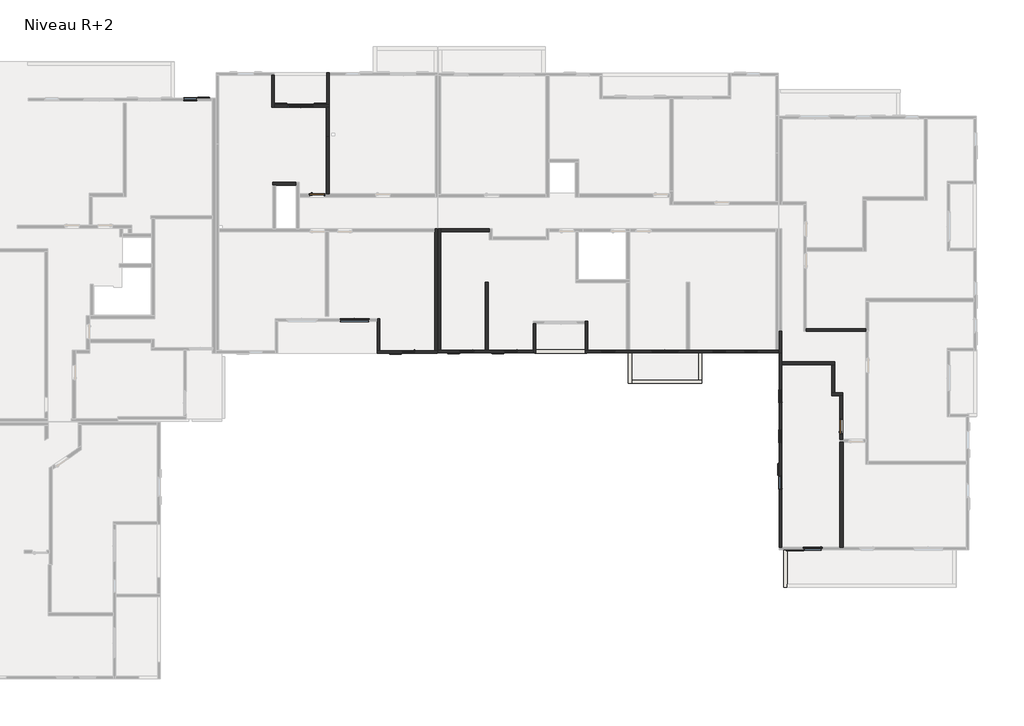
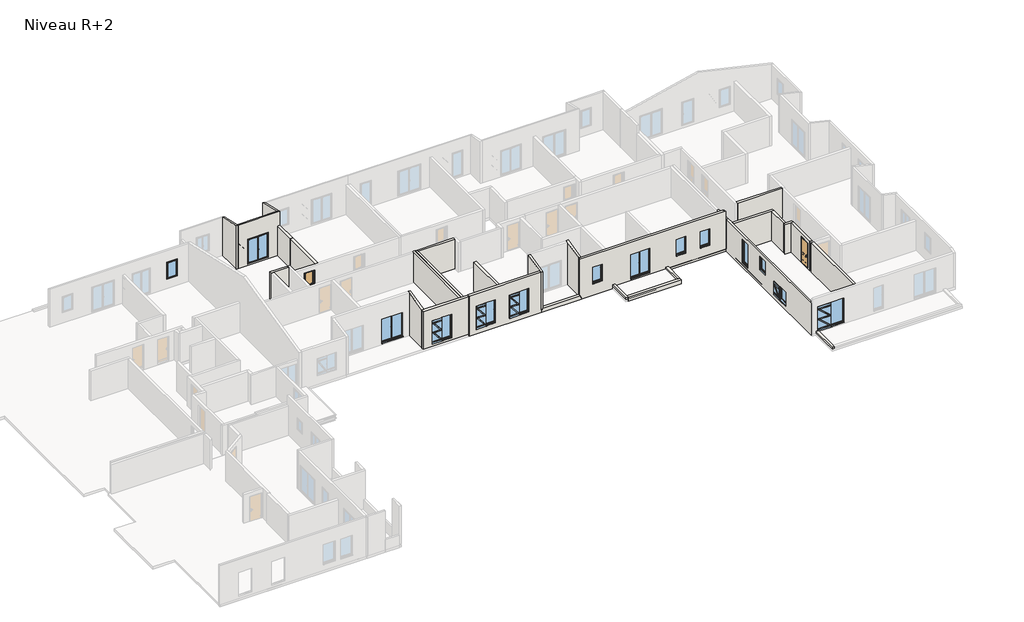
# One storey, part 4 of 7: 29 walls, 14 windows, 2 doors.
"""IFC4 building model written with IfcOpenShell, lengths in millimetres."""

from ifc_helpers import new_model, si_unit, frame, origin, place, context, project, spatial, polyline, outline, extrude, faceted_brep, transform, mapped, element, save
from components import door_88e42b76, door_280daffa, window_e9bb7084, window_2b853f76, window_0_80m_x_1_15m_e63e5422, window_0_80m_x_1_45m_ea18c776, window_0_80m_x_1_45m_510e4769, window_0_80m_x_2_05m_45d8a1b5, window_0_80m_x_2_05m_30132c93, window_1_10m_x_2_15m_8741d377, window_1_60m_x_2_15m_1bfb613b, window_1_60m_x_2_15m_e7e592b5, window_1_80m_x_2_15m_7d3a4370

model = new_model("IFC4")

# Units and contexts
model_context = context("Model", 3, world=origin())
ifc_project = project(units=[si_unit("LENGTHUNIT", "METRE", prefix="MILLI")], contexts=[model_context])

# Site, building, storey
site = spatial("IfcSite", under=ifc_project)
building = spatial("IfcBuilding", under=site)
storey = spatial("IfcBuildingStorey", under=building, Name="Niveau R+2", Elevation=6120.0)

# Doors
placement = place(None, origin())
door_shape = door_88e42b76(model_context)
element("IfcDoor", 1, ObjectType="Entrée (avec angle d'ouverture) : PP Avec moulures (0.90 m x 2.15 m)", at=placement, inside=storey, context=model_context, shape_type="MappedRepresentation", body=[
    mapped(door_shape, transform((30232.3833363, 24372.4965623, 6120.0), x_axis=(1.0, 0.0, 0.0), y_axis=(0.0, 1.0, 0.0), z_axis=(0.0, 0.0, 1.0))),
])
door_2_shape = door_280daffa(model_context)
element("IfcDoor", 2, ObjectType="Entrée (avec angle d'ouverture) : PP Avec moulures (0.90 m x 2.15 m)", at=placement, inside=storey, context=model_context, shape_type="MappedRepresentation", body=[
    mapped(door_2_shape, transform((63287.9329052, 9804.0889515, 6120.0), x_axis=(0.0, 1.0, 0.0), y_axis=(-1.0, 0.0, 0.0), z_axis=(0.0, 0.0, 1.0))),
])

# Walls
element("IfcWall", 3, ObjectType="Ext. Voile BA 16 + Isolant 12 sans enduit", at=placement, inside=storey, context=model_context, shape_type="SweptSolid", body=[
    extrude(outline(polyline([(59512.9059955, 15804.7371469), (59512.9059955, 14437.838074), (59352.9059955, 14437.838074), (59352.9059955, 15804.7371469), (59512.9059955, 15804.7371469)])), frame((0.0, 0.0, 6030.0), z_axis=(0.0, 0.0, 1.0), x_axis=(1.0, 0.0, 0.0)), (0.0, 0.0, 1.0), 2620.0),
])
element("IfcWall", 4, ObjectType="Ext. Voile BA 16 + Isolant 120", at=placement, inside=storey, context=model_context, shape_type="Brep", body=[
    faceted_brep([(27364.3814808, 31947.4974719, 9403.3012228), (27364.3814808, 31947.4974719, 6030.0), (27364.3814808, 29952.4974719, 6030.0), (27364.3814808, 29952.4974719, 9863.8832641), (27524.3814808, 31947.4974719, 6030.0), (27524.3814808, 31947.4974719, 9403.3012228), (27524.3814808, 30112.4974719, 9826.9443536), (27524.3814808, 29952.4974719, 9863.8832641), (27524.3814808, 29952.4974719, 6030.0), (27444.3814808, 31947.4974719, 6030.0)], [[[0, 1, 2, 3]], [[4, 5, 6, 7, 8]], [[2, 1, 9, 4, 8]], [[3, 2, 8, 7]], [[0, 5, 4, 9, 1]], [[0, 3, 7, 6, 5]]]),
])
element("IfcWall", 5, ObjectType="Ext. Voile BA 16 + Isolant 120", at=placement, inside=storey, context=model_context, shape_type="Brep", body=[
    faceted_brep([(27524.3814808, 29952.4974719, 5830.0), (30984.3814808, 29952.4974719, 5830.0), (30984.3814808, 29952.4974719, 9863.8832641), (27524.3814808, 29952.4974719, 9863.8832641), (27524.3814808, 29952.4974719, 6030.0), (29974.3814808, 29952.4974719, 6155.0), (28374.3814808, 29952.4974719, 6155.0), (28324.3814808, 29952.4974719, 6155.0), (28324.3814808, 29952.4974719, 8355.0), (30024.3814808, 29952.4974719, 8355.0), (30024.3814808, 29952.4974719, 6155.0), (30984.3814808, 30112.4974719, 5830.0), (27524.3814808, 30112.4974719, 5830.0), (27524.3814808, 30112.4974719, 9826.9443536), (30824.3814808, 30112.4974719, 9826.9443536), (30984.3814808, 30112.4974719, 9826.9443536), (30984.3814808, 30112.4974719, 6030.0), (28374.3814808, 30112.4974719, 8305.0), (28374.3814808, 30112.4974719, 6146.5916612), (29974.3814808, 30112.4974719, 6146.5916612), (29974.3814808, 30112.4974719, 8305.0), (28374.3814808, 30052.4974719, 8305.0), (28374.3814808, 30052.4974719, 6155.0), (28374.3814808, 30032.4974719, 6155.0), (29974.3814808, 30032.4974719, 6155.0), (29974.3814808, 30052.4974719, 6155.0), (29974.3814808, 30052.4974719, 8305.0), (28364.3814808, 30052.4974719, 6155.0), (28364.3814808, 30002.4974719, 6155.0), (28324.3814808, 30002.4974719, 6155.0), (30024.3814808, 30002.4974719, 6155.0), (29984.3814808, 30002.4974719, 6155.0), (29984.3814808, 30052.4974719, 6155.0), (28324.3814808, 30002.4974719, 8355.0), (30024.3814808, 30002.4974719, 8355.0), (28364.3814808, 30002.4974719, 8315.0), (29984.3814808, 30002.4974719, 8315.0), (28364.3814808, 30052.4974719, 8315.0), (29984.3814808, 30052.4974719, 8315.0)], [[[0, 1, 2, 3, 4], [5, 6, 7, 8, 9, 10]], [[11, 12, 13, 14, 15, 16], [17, 18, 19, 20]], [[1, 0, 12, 11]], [[0, 4, 3, 13, 12]], [[2, 1, 11, 16, 15]], [[21, 22, 23, 18, 17]], [[24, 25, 26, 20, 19]], [[23, 22, 27, 28, 29, 7, 6, 5, 10, 30, 31, 32, 25, 24]], [[26, 21, 17, 20]], [[23, 24, 19, 18]], [[7, 29, 33, 8]], [[31, 30, 34, 33, 29, 28, 35, 36]], [[28, 27, 37, 35]], [[22, 21, 26, 25, 32, 38, 37, 27]], [[8, 33, 34, 9]], [[36, 35, 37, 38]], [[30, 10, 9, 34]], [[32, 31, 36, 38]], [[3, 2, 15, 14, 13]]]),
])
element("IfcWall", 6, ObjectType="Ext. Voile BA 16 + Isolant 120", at=placement, inside=storey, context=model_context, shape_type="Brep", body=[
    faceted_brep([(30984.3814808, 30112.4974719, 6030.0), (30984.3814808, 31947.4972516, 6030.0), (30984.3814808, 32107.4972516, 6030.0), (30984.3814808, 32107.4972516, 9366.3623631), (30984.3814808, 31947.4972516, 9403.3012737), (30984.3814808, 30112.4974719, 9826.9443536), (30824.3814808, 30112.4974719, 6030.0), (30824.3814808, 30112.4974719, 9826.9443536), (30824.3814808, 32107.4972516, 9366.3623631), (30824.3814808, 32107.4972516, 6030.0), (30904.3814808, 32107.4972516, 6030.0)], [[[0, 1, 2, 3, 4, 5]], [[6, 7, 8, 9]], [[2, 1, 0, 6, 9, 10]], [[0, 5, 7, 6]], [[2, 10, 9, 8, 3]], [[5, 4, 3, 8, 7]]]),
])
element("IfcWall", 7, ObjectType="Ext. Voile BA 16 + Isolant 120", at=placement, inside=storey, context=model_context, shape_type="Brep", body=[
    faceted_brep([(34012.3966699, 14597.8380864, 9403.3012737), (34172.3966699, 14597.8380864, 9403.3012737), (37799.4832806, 14597.8380864, 9403.3012737), (37799.4832806, 14597.8380864, 8650.0), (37799.4832806, 14597.8380864, 6030.0), (37639.4832806, 14597.8380864, 6030.0), (34172.3966699, 14597.8380864, 6030.0), (34012.3966699, 14597.8380864, 6030.0), (35541.8956313, 14597.8380864, 6255.0), (36441.8956313, 14597.8380864, 6255.0), (36441.8956313, 14597.8380864, 8355.0), (35541.8956313, 14597.8380864, 8355.0), (37799.4832806, 14437.8380864, 9366.3623631), (34012.3966699, 14437.8380864, 9366.3623631), (34012.3966699, 14437.8380864, 6030.0), (37799.4832806, 14437.8380864, 6030.0), (36391.8956313, 14437.8380864, 8305.0), (36391.8956313, 14437.8380864, 6246.5916612), (35591.8956313, 14437.8380864, 6246.5916612), (35591.8956313, 14437.8380864, 8305.0), (36391.8956313, 14517.8380864, 6255.0), (36391.8956313, 14497.8380864, 8305.0), (36391.8956313, 14497.8380864, 6255.0), (35591.8956313, 14517.8380864, 6255.0), (35591.8956313, 14497.8380864, 6255.0), (35591.8956313, 14497.8380864, 8305.0), (36401.8956313, 14497.8380864, 6255.0), (36401.8956313, 14547.8380864, 6255.0), (36441.8956313, 14547.8380864, 6255.0), (35541.8956313, 14547.8380864, 6255.0), (35581.8956313, 14547.8380864, 6255.0), (35581.8956313, 14497.8380864, 6255.0), (36441.8956313, 14547.8380864, 8355.0), (36401.8956313, 14547.8380864, 8315.0), (35581.8956313, 14547.8380864, 8315.0), (35541.8956313, 14547.8380864, 8355.0), (36401.8956313, 14497.8380864, 8315.0), (35581.8956313, 14497.8380864, 8315.0)], [[[0, 1, 2, 3, 4, 5, 6, 7], [8, 9, 10, 11]], [[12, 13, 14, 15], [16, 17, 18, 19]], [[13, 0, 7, 14]], [[2, 12, 15, 4, 3]], [[7, 6, 5, 4, 15, 14]], [[20, 17, 16, 21, 22]], [[18, 23, 24, 25, 19]], [[17, 20, 23, 18]], [[21, 16, 19, 25]], [[20, 22, 26, 27, 28, 9, 8, 29, 30, 31, 24, 23]], [[9, 28, 32, 10]], [[28, 27, 33, 34, 30, 29, 35, 32]], [[27, 26, 36, 33]], [[22, 21, 25, 24, 31, 37, 36, 26]], [[10, 32, 35, 11]], [[34, 33, 36, 37]], [[29, 8, 11, 35]], [[31, 30, 34, 37]], [[2, 1, 0, 13, 12]]]),
])
element("IfcWall", 8, ObjectType="Ext. Voile BA 16 + Isolant 120", at=placement, inside=storey, context=model_context, shape_type="SweptSolid", body=[
    extrude(outline(polyline([(14597.8380864, 6030.0), (14597.8380864, 9403.3012737), (16591.4013077, 9863.5516085), (16591.4013077, 6030.0), (14597.8380864, 6030.0)])), frame((34012.3966699, 0.0, 0.0), z_axis=(1.0, 0.0, 0.0), x_axis=(0.0, 1.0, 0.0)), (0.0, 0.0, 1.0), 160.0),
])
element("IfcWall", 9, ObjectType="Ext. Voile BA 16 + Isolant 120", at=placement, inside=storey, context=model_context, shape_type="Brep", body=[
    faceted_brep([(59512.9059955, 2184.0269927, 5830.0), (59512.9059955, 14437.838074, 5830.0), (59512.9059955, 14437.838074, 6030.0), (59512.9059955, 14437.838074, 8650.0), (59512.9059955, 13894.0889866, 8650.0), (59512.9059955, 13714.0889866, 8650.0), (59512.9059955, 2184.0269927, 8650.0), (59512.9059955, 9590.2011252, 7155.0), (59512.9059955, 8790.2011252, 7155.0), (59512.9059955, 8740.2011252, 7155.0), (59512.9059955, 8740.2011252, 8355.0), (59512.9059955, 9640.2011252, 8355.0), (59512.9059955, 9640.2011252, 7155.0), (59512.9059955, 12169.0889866, 6255.0), (59512.9059955, 11269.0889866, 6255.0), (59512.9059955, 11269.0889866, 8355.0), (59512.9059955, 12169.0889866, 8355.0), (59512.9059955, 6705.2011252, 6255.0), (59512.9059955, 5805.2011252, 6255.0), (59512.9059955, 5805.2011252, 7455.0), (59512.9059955, 6705.2011252, 7455.0), (59352.9059955, 14437.838074, 5830.0), (59352.9059955, 2184.0269927, 5830.0), (59352.9059955, 2184.0269927, 6030.0), (59352.9059955, 2184.0269927, 8650.0), (59352.9059955, 14437.838074, 8650.0), (59352.9059955, 14437.838074, 6030.0), (59352.9059955, 8790.2011252, 8305.0), (59352.9059955, 8790.2011252, 7146.5916612), (59352.9059955, 9590.2011252, 7146.5916612), (59352.9059955, 9590.2011252, 8305.0), (59352.9059955, 11319.0889866, 8305.0), (59352.9059955, 11319.0889866, 6246.5916612), (59352.9059955, 12119.0889866, 6246.5916612), (59352.9059955, 12119.0889866, 8305.0), (59352.9059955, 5855.2011252, 7405.0), (59352.9059955, 5855.2011252, 6175.0), (59352.9059955, 6655.2011252, 6175.0), (59352.9059955, 6655.2011252, 7405.0), (59412.9059955, 8790.2011252, 8305.0), (59412.9059955, 8790.2011252, 7155.0), (59432.9059955, 8790.2011252, 7155.0), (59432.9059955, 9590.2011252, 7155.0), (59412.9059955, 9590.2011252, 7155.0), (59412.9059955, 9590.2011252, 8305.0), (59412.9059955, 8780.2011252, 7155.0), (59462.9059955, 8780.2011252, 7155.0), (59462.9059955, 8740.2011252, 7155.0), (59462.9059955, 9640.2011252, 7155.0), (59462.9059955, 9600.2011252, 7155.0), (59412.9059955, 9600.2011252, 7155.0), (59462.9059955, 8740.2011252, 8355.0), (59462.9059955, 9640.2011252, 8355.0), (59462.9059955, 8780.2011252, 8315.0), (59462.9059955, 9600.2011252, 8315.0), (59412.9059955, 8780.2011252, 8315.0), (59412.9059955, 9600.2011252, 8315.0), (59432.9059955, 11319.0889866, 6255.0), (59412.9059955, 11319.0889866, 8305.0), (59412.9059955, 11319.0889866, 6255.0), (59432.9059955, 12119.0889866, 6255.0), (59412.9059955, 12119.0889866, 6255.0), (59412.9059955, 12119.0889866, 8305.0), (59412.9059955, 11309.0889866, 6255.0), (59462.9059955, 11309.0889866, 6255.0), (59462.9059955, 11269.0889866, 6255.0), (59462.9059955, 12169.0889866, 6255.0), (59462.9059955, 12129.0889866, 6255.0), (59412.9059955, 12129.0889866, 6255.0), (59462.9059955, 11269.0889866, 8355.0), (59462.9059955, 11309.0889866, 8315.0), (59462.9059955, 12129.0889866, 8315.0), (59462.9059955, 12169.0889866, 8355.0), (59412.9059955, 11309.0889866, 8315.0), (59412.9059955, 12129.0889866, 8315.0), (59432.9059955, 5855.2011252, 6175.0), (59412.9059955, 5855.2011252, 7405.0), (59412.9059955, 5855.2011252, 6255.0), (59432.9059955, 5855.2011252, 6255.0), (59432.9059955, 6655.2011252, 6175.0), (59432.9059955, 6655.2011252, 6255.0), (59412.9059955, 6655.2011252, 6255.0), (59412.9059955, 6655.2011252, 7405.0), (59412.9059955, 5845.2011252, 6255.0), (59462.9059955, 5845.2011252, 6255.0), (59462.9059955, 5805.2011252, 6255.0), (59462.9059955, 6705.2011252, 6255.0), (59462.9059955, 6665.2011252, 6255.0), (59412.9059955, 6665.2011252, 6255.0), (59462.9059955, 5805.2011252, 7455.0), (59462.9059955, 5845.2011252, 7415.0), (59462.9059955, 6665.2011252, 7415.0), (59462.9059955, 6705.2011252, 7455.0), (59412.9059955, 5845.2011252, 7415.0), (59412.9059955, 6665.2011252, 7415.0)], [[[0, 1, 2, 3, 4, 5, 6], [7, 8, 9, 10, 11, 12], [13, 14, 15, 16], [17, 18, 19, 20]], [[21, 22, 23, 24, 25, 26], [27, 28, 29, 30], [31, 32, 33, 34], [35, 36, 37, 38]], [[1, 0, 22, 21]], [[3, 2, 1, 21, 26, 25]], [[6, 5, 4, 3, 25, 24]], [[0, 6, 24, 23, 22]], [[39, 40, 41, 28, 27]], [[42, 43, 44, 30, 29]], [[41, 40, 45, 46, 47, 9, 8, 7, 12, 48, 49, 50, 43, 42]], [[44, 39, 27, 30]], [[41, 42, 29, 28]], [[9, 47, 51, 10]], [[49, 48, 52, 51, 47, 46, 53, 54]], [[46, 45, 55, 53]], [[40, 39, 44, 43, 50, 56, 55, 45]], [[10, 51, 52, 11]], [[54, 53, 55, 56]], [[48, 12, 11, 52]], [[50, 49, 54, 56]], [[57, 32, 31, 58, 59]], [[33, 60, 61, 62, 34]], [[32, 57, 60, 33]], [[58, 31, 34, 62]], [[57, 59, 63, 64, 65, 14, 13, 66, 67, 68, 61, 60]], [[14, 65, 69, 15]], [[65, 64, 70, 71, 67, 66, 72, 69]], [[64, 63, 73, 70]], [[59, 58, 62, 61, 68, 74, 73, 63]], [[15, 69, 72, 16]], [[71, 70, 73, 74]], [[66, 13, 16, 72]], [[68, 67, 71, 74]], [[75, 36, 35, 76, 77, 78]], [[37, 79, 80, 81, 82, 38]], [[36, 75, 79, 37]], [[76, 35, 38, 82]], [[78, 77, 83, 84, 85, 18, 17, 86, 87, 88, 81, 80]], [[18, 85, 89, 19]], [[85, 84, 90, 91, 87, 86, 92, 89]], [[84, 83, 93, 90]], [[77, 76, 82, 81, 88, 94, 93, 83]], [[19, 89, 92, 20]], [[91, 90, 93, 94]], [[86, 17, 20, 92]], [[88, 87, 91, 94]], [[75, 78, 80, 79]]]),
])
element("IfcWall", 10, ObjectType="Ext. Voile BA 16 + Isolant 120", at=placement, inside=storey, context=model_context, shape_type="Brep", body=[
    faceted_brep([(59292.9632272, 14617.838074, 5830.0), (47212.2384282, 14617.838074, 5830.0), (47212.2384282, 14617.838074, 6030.0), (47132.2384282, 14617.838074, 6030.0), (47132.2384282, 14617.838074, 9407.9186347), (47292.2384282, 14617.838074, 9407.9186347), (59102.0328268, 14617.838074, 9407.9186347), (59292.9632272, 14617.838074, 9363.8388785), (59292.9632272, 14617.838074, 8650.0), (59292.9632272, 14617.838074, 6030.0), (51321.5533494, 14617.838074, 6155.0), (53021.5533494, 14617.838074, 6155.0), (53021.5533494, 14617.838074, 8355.0), (51321.5533494, 14617.838074, 8355.0), (55131.1686301, 14617.838074, 6855.0), (56031.1686301, 14617.838074, 6855.0), (56031.1686301, 14617.838074, 8355.0), (55131.1686301, 14617.838074, 8355.0), (48128.6252663, 14617.838074, 6855.0), (49028.6252663, 14617.838074, 6855.0), (49028.6252663, 14617.838074, 8355.0), (48128.6252663, 14617.838074, 8355.0), (57127.7427462, 14617.838074, 6855.0), (58027.7427462, 14617.838074, 6855.0), (58027.7427462, 14617.838074, 8355.0), (57127.7427462, 14617.838074, 8355.0), (59292.9632272, 14457.838074, 5830.0), (59292.9632272, 14457.838074, 9363.8388785), (59262.0328268, 14457.838074, 9370.9797241), (47132.2384282, 14457.838074, 9370.9797241), (47132.2384282, 14457.838074, 6030.0), (47212.2384282, 14457.838074, 6030.0), (47212.2384282, 14457.838074, 5830.0), (52971.5533494, 14457.838074, 8305.0), (52971.5533494, 14457.838074, 6146.5916612), (51371.5533494, 14457.838074, 6146.5916612), (51371.5533494, 14457.838074, 8305.0), (55181.1686301, 14457.838074, 6846.5916612), (55181.1686301, 14457.838074, 8305.0), (55981.1686301, 14457.838074, 8305.0), (55981.1686301, 14457.838074, 6846.5916612), (48978.6252663, 14457.838074, 8305.0), (48978.6252663, 14457.838074, 6846.5916612), (48178.6252663, 14457.838074, 6846.5916612), (48178.6252663, 14457.838074, 8305.0), (57177.7427462, 14457.838074, 6846.5916612), (57177.7427462, 14457.838074, 8305.0), (57977.7427462, 14457.838074, 8305.0), (57977.7427462, 14457.838074, 6846.5916612), (52971.5533494, 14537.838074, 6155.0), (52971.5533494, 14517.838074, 8305.0), (52971.5533494, 14517.838074, 6155.0), (51371.5533494, 14537.838074, 6155.0), (51371.5533494, 14517.838074, 6155.0), (51371.5533494, 14517.838074, 8305.0), (52981.5533494, 14517.838074, 6155.0), (52981.5533494, 14567.838074, 6155.0), (53021.5533494, 14567.838074, 6155.0), (51321.5533494, 14567.838074, 6155.0), (51361.5533494, 14567.838074, 6155.0), (51361.5533494, 14517.838074, 6155.0), (53021.5533494, 14567.838074, 8355.0), (52981.5533494, 14567.838074, 8315.0), (51361.5533494, 14567.838074, 8315.0), (51321.5533494, 14567.838074, 8355.0), (52981.5533494, 14517.838074, 8315.0), (51361.5533494, 14517.838074, 8315.0), (55181.1686301, 14537.838074, 6855.0), (55181.1686301, 14517.838074, 6855.0), (55181.1686301, 14517.838074, 8305.0), (55981.1686301, 14517.838074, 8305.0), (55981.1686301, 14517.838074, 6855.0), (55981.1686301, 14537.838074, 6855.0), (55991.1686301, 14517.838074, 6855.0), (55991.1686301, 14567.838074, 6855.0), (56031.1686301, 14567.838074, 6855.0), (55131.1686301, 14567.838074, 6855.0), (55171.1686301, 14567.838074, 6855.0), (55171.1686301, 14517.838074, 6855.0), (55131.1686301, 14567.838074, 8355.0), (56031.1686301, 14567.838074, 8355.0), (55991.1686301, 14567.838074, 8315.0), (55171.1686301, 14567.838074, 8315.0), (55171.1686301, 14517.838074, 8315.0), (55991.1686301, 14517.838074, 8315.0), (48978.6252663, 14537.838074, 6855.0), (48978.6252663, 14517.838074, 8305.0), (48978.6252663, 14517.838074, 6855.0), (48178.6252663, 14537.838074, 6855.0), (48178.6252663, 14517.838074, 6855.0), (48178.6252663, 14517.838074, 8305.0), (48988.6252663, 14517.838074, 6855.0), (48988.6252663, 14567.838074, 6855.0), (49028.6252663, 14567.838074, 6855.0), (48128.6252663, 14567.838074, 6855.0), (48168.6252663, 14567.838074, 6855.0), (48168.6252663, 14517.838074, 6855.0), (49028.6252663, 14567.838074, 8355.0), (48988.6252663, 14567.838074, 8315.0), (48168.6252663, 14567.838074, 8315.0), (48128.6252663, 14567.838074, 8355.0), (48988.6252663, 14517.838074, 8315.0), (48168.6252663, 14517.838074, 8315.0), (57177.7427462, 14537.838074, 6855.0), (57177.7427462, 14517.838074, 6855.0), (57177.7427462, 14517.838074, 8305.0), (57977.7427462, 14517.838074, 8305.0), (57977.7427462, 14517.838074, 6855.0), (57977.7427462, 14537.838074, 6855.0), (57987.7427462, 14517.838074, 6855.0), (57987.7427462, 14567.838074, 6855.0), (58027.7427462, 14567.838074, 6855.0), (57127.7427462, 14567.838074, 6855.0), (57167.7427462, 14567.838074, 6855.0), (57167.7427462, 14517.838074, 6855.0), (57127.7427462, 14567.838074, 8355.0), (58027.7427462, 14567.838074, 8355.0), (57987.7427462, 14567.838074, 8315.0), (57167.7427462, 14567.838074, 8315.0), (57167.7427462, 14517.838074, 8315.0), (57987.7427462, 14517.838074, 8315.0)], [[[0, 1, 2, 3, 4, 5, 6, 7, 8, 9], [10, 11, 12, 13], [14, 15, 16, 17], [18, 19, 20, 21], [22, 23, 24, 25]], [[26, 27, 28, 29, 30, 31, 32], [33, 34, 35, 36], [37, 38, 39, 40], [41, 42, 43, 44], [45, 46, 47, 48]], [[1, 0, 26, 32]], [[0, 9, 8, 7, 27, 26]], [[49, 34, 33, 50, 51]], [[35, 52, 53, 54, 36]], [[49, 52, 35, 34]], [[33, 36, 54, 50]], [[52, 49, 51, 55, 56, 57, 11, 10, 58, 59, 60, 53]], [[11, 57, 61, 12]], [[57, 56, 62, 63, 59, 58, 64, 61]], [[56, 55, 65, 62]], [[55, 51, 50, 54, 53, 60, 66, 65]], [[12, 61, 64, 13]], [[63, 62, 65, 66]], [[64, 58, 10, 13]], [[59, 63, 66, 60]], [[67, 68, 69, 38, 37]], [[40, 39, 70, 71, 72]], [[67, 37, 40, 72]], [[38, 69, 70, 39]], [[72, 71, 73, 74, 75, 15, 14, 76, 77, 78, 68, 67]], [[14, 17, 79, 76]], [[76, 79, 80, 75, 74, 81, 82, 77]], [[77, 82, 83, 78]], [[78, 83, 84, 73, 71, 70, 69, 68]], [[17, 16, 80, 79]], [[81, 84, 83, 82]], [[80, 16, 15, 75]], [[74, 73, 84, 81]], [[85, 42, 41, 86, 87]], [[43, 88, 89, 90, 44]], [[85, 88, 43, 42]], [[41, 44, 90, 86]], [[88, 85, 87, 91, 92, 93, 19, 18, 94, 95, 96, 89]], [[19, 93, 97, 20]], [[93, 92, 98, 99, 95, 94, 100, 97]], [[92, 91, 101, 98]], [[91, 87, 86, 90, 89, 96, 102, 101]], [[20, 97, 100, 21]], [[99, 98, 101, 102]], [[100, 94, 18, 21]], [[95, 99, 102, 96]], [[2, 1, 32, 31]], [[30, 3, 2, 31]], [[103, 104, 105, 46, 45]], [[48, 47, 106, 107, 108]], [[103, 45, 48, 108]], [[46, 105, 106, 47]], [[108, 107, 109, 110, 111, 23, 22, 112, 113, 114, 104, 103]], [[22, 25, 115, 112]], [[112, 115, 116, 111, 110, 117, 118, 113]], [[113, 118, 119, 114]], [[114, 119, 120, 109, 107, 106, 105, 104]], [[25, 24, 116, 115]], [[117, 120, 119, 118]], [[116, 24, 23, 111]], [[110, 109, 120, 117]], [[3, 30, 29, 4]], [[7, 6, 28, 27]], [[6, 5, 4, 29, 28]]]),
])
element("IfcWall", 11, ObjectType="Ext. Voile BA 16 + Isolant 120", at=placement, inside=storey, context=model_context, shape_type="Brep", body=[
    faceted_brep([(47292.2384282, 14617.838074, 9407.9186347), (47292.2384282, 14617.838074, 6030.0), (47292.2384282, 16448.2809457, 6030.0), (47292.2384282, 16448.2809457, 9830.5096694), (47132.2384282, 14617.838074, 6030.0), (47132.2384282, 14617.838074, 9407.9186347), (47132.2384282, 16288.2809457, 9793.5707588), (47132.2384282, 16448.2809457, 9830.5096694), (47132.2384282, 16448.2809457, 6030.0), (47132.2384282, 16288.2809457, 6030.0), (47132.2384282, 14637.4952897, 6030.0), (47212.2384282, 14617.838074, 6030.0)], [[[0, 1, 2, 3]], [[4, 5, 6, 7, 8, 9, 10]], [[2, 1, 11, 4, 10, 9, 8]], [[3, 2, 8, 7]], [[0, 5, 4, 11, 1]], [[0, 3, 7, 6, 5]]]),
])
element("IfcWall", 12, ObjectType="Ext. Voile BA 16 + Isolant 120", at=placement, inside=storey, context=model_context, shape_type="Brep", body=[
    faceted_brep([(43855.5620379, 16288.2809457, 6030.0), (43855.5620379, 14617.4952897, 6030.0), (43855.5620379, 14457.4952897, 6030.0), (43855.5620379, 14457.4952897, 9370.9005861), (43855.5620379, 14617.4952897, 9407.8394967), (43855.5620379, 16288.2809457, 9793.5707588), (44015.5620379, 16288.2809457, 6030.0), (44015.5620379, 16288.2809457, 9793.5707588), (44015.5620379, 14457.4952897, 9370.9005861), (44015.5620379, 14457.4952897, 6030.0), (44015.5620379, 14637.4952897, 6030.0), (43935.5620379, 14457.4952897, 6030.0)], [[[0, 1, 2, 3, 4, 5]], [[6, 7, 8, 9, 10]], [[2, 1, 0, 6, 10, 9, 11]], [[0, 5, 7, 6]], [[2, 11, 9, 8, 3]], [[5, 4, 3, 8, 7]]]),
])
element("IfcWall", 13, ObjectType="Ext. Voile BA 16 + Isolant 120", at=placement, inside=storey, context=model_context, shape_type="Brep", body=[
    faceted_brep([(43935.5620379, 14617.4952897, 5830.0), (37867.390788, 14617.4952897, 5830.0), (37867.390788, 14617.4952897, 6030.0), (37867.390788, 14617.4952897, 8650.0), (37867.390788, 14617.4952897, 9407.8394967), (43855.5620379, 14617.4952897, 9407.8394967), (43855.5620379, 14617.4952897, 6030.0), (43935.5620379, 14617.4952897, 6030.0), (42000.5620379, 14617.4952897, 6255.0), (42900.5620379, 14617.4952897, 6255.0), (42900.5620379, 14617.4952897, 8355.0), (42000.5620379, 14617.4952897, 8355.0), (39217.3913304, 14617.4952897, 6255.0), (40117.3913304, 14617.4952897, 6255.0), (40117.3913304, 14617.4952897, 8355.0), (39217.3913304, 14617.4952897, 8355.0), (43935.5620379, 14457.4952897, 5830.0), (43935.5620379, 14457.4952897, 6030.0), (43855.5620379, 14457.4952897, 6030.0), (43855.5620379, 14457.4952897, 9370.9005861), (37867.390788, 14457.4952897, 9370.9005861), (37867.390788, 14457.4952897, 5830.0), (42850.5620379, 14457.4952897, 8305.0), (42850.5620379, 14457.4952897, 6246.5916612), (42050.5620379, 14457.4952897, 6246.5916612), (42050.5620379, 14457.4952897, 8305.0), (40067.3913304, 14457.4952897, 8305.0), (40067.3913304, 14457.4952897, 6246.5916612), (39267.3913304, 14457.4952897, 6246.5916612), (39267.3913304, 14457.4952897, 8305.0), (42850.5620379, 14537.4952897, 6255.0), (42850.5620379, 14517.4952897, 8305.0), (42850.5620379, 14517.4952897, 6255.0), (42050.5620379, 14537.4952897, 6255.0), (42050.5620379, 14517.4952897, 6255.0), (42050.5620379, 14517.4952897, 8305.0), (42860.5620379, 14517.4952897, 6255.0), (42860.5620379, 14567.4952897, 6255.0), (42900.5620379, 14567.4952897, 6255.0), (42000.5620379, 14567.4952897, 6255.0), (42040.5620379, 14567.4952897, 6255.0), (42040.5620379, 14517.4952897, 6255.0), (42900.5620379, 14567.4952897, 8355.0), (42860.5620379, 14567.4952897, 8315.0), (42040.5620379, 14567.4952897, 8315.0), (42000.5620379, 14567.4952897, 8355.0), (42860.5620379, 14517.4952897, 8315.0), (42040.5620379, 14517.4952897, 8315.0), (40067.3913304, 14537.4952897, 6255.0), (40067.3913304, 14517.4952897, 8305.0), (40067.3913304, 14517.4952897, 6255.0), (39267.3913304, 14537.4952897, 6255.0), (39267.3913304, 14517.4952897, 6255.0), (39267.3913304, 14517.4952897, 8305.0), (40077.3913304, 14517.4952897, 6255.0), (40077.3913304, 14567.4952897, 6255.0), (40117.3913304, 14567.4952897, 6255.0), (39217.3913304, 14567.4952897, 6255.0), (39257.3913304, 14567.4952897, 6255.0), (39257.3913304, 14517.4952897, 6255.0), (40117.3913304, 14567.4952897, 8355.0), (40077.3913304, 14567.4952897, 8315.0), (39257.3913304, 14567.4952897, 8315.0), (39217.3913304, 14567.4952897, 8355.0), (40077.3913304, 14517.4952897, 8315.0), (39257.3913304, 14517.4952897, 8315.0)], [[[0, 1, 2, 3, 4, 5, 6, 7], [8, 9, 10, 11], [12, 13, 14, 15]], [[16, 17, 18, 19, 20, 21], [22, 23, 24, 25], [26, 27, 28, 29]], [[1, 0, 16, 21]], [[4, 3, 2, 1, 21, 20]], [[30, 23, 22, 31, 32]], [[24, 33, 34, 35, 25]], [[30, 33, 24, 23]], [[22, 25, 35, 31]], [[33, 30, 32, 36, 37, 38, 9, 8, 39, 40, 41, 34]], [[9, 38, 42, 10]], [[38, 37, 43, 44, 40, 39, 45, 42]], [[37, 36, 46, 43]], [[36, 32, 31, 35, 34, 41, 47, 46]], [[10, 42, 45, 11]], [[44, 43, 46, 47]], [[45, 39, 8, 11]], [[40, 44, 47, 41]], [[48, 27, 26, 49, 50]], [[28, 51, 52, 53, 29]], [[48, 51, 28, 27]], [[26, 29, 53, 49]], [[51, 48, 50, 54, 55, 56, 13, 12, 57, 58, 59, 52]], [[13, 56, 60, 14]], [[56, 55, 61, 62, 58, 57, 63, 60]], [[55, 54, 64, 61]], [[54, 50, 49, 53, 52, 59, 65, 64]], [[14, 60, 63, 15]], [[62, 61, 64, 65]], [[63, 57, 12, 15]], [[58, 62, 65, 59]], [[0, 7, 17, 16]], [[6, 18, 17, 7]], [[5, 19, 18, 6]], [[5, 4, 20, 19]]]),
])
element("IfcWall", 14, ObjectType="Ext. Voile BA 20", at=placement, inside=storey, context=model_context, shape_type="Brep", body=[
    faceted_brep([(59661.4596037, 2024.0269927, 6030.0), (59661.4596037, -332.6247642, 6030.0), (59661.4596037, -332.6247642, 6180.0), (59661.4596037, 2024.0269927, 6180.0), (59861.4596037, 2024.0269927, 6030.0), (59861.4596037, 2024.0269927, 6180.0), (59861.4596037, -132.6247642, 6180.0), (59861.4596037, -332.6247642, 6180.0), (59861.4596037, -332.6247642, 6030.0), (59861.4596037, -132.6247642, 6030.0)], [[[0, 1, 2, 3]], [[4, 5, 6, 7, 8, 9]], [[1, 0, 4, 9, 8]], [[3, 2, 7, 6, 5]], [[0, 3, 5, 4]], [[2, 1, 8, 7]]]),
])
element("IfcWall", 15, ObjectType="Ext. Voile BA 20", at=placement, inside=storey, context=model_context, shape_type="Brep", body=[
    faceted_brep([(49852.9658186, 14457.838074, 6030.0), (49852.9658186, 12537.4960288, 6030.0), (49852.9658186, 12537.4960288, 6180.0), (49852.9658186, 14457.838074, 6180.0), (50052.9658186, 14457.838074, 6030.0), (50052.9658186, 14457.838074, 6180.0), (50052.9658186, 12737.4960288, 6180.0), (50052.9658186, 12537.4960288, 6180.0), (50052.9658186, 12537.4960288, 6030.0)], [[[0, 1, 2, 3]], [[4, 5, 6, 7, 8]], [[1, 0, 4, 8]], [[3, 2, 7, 6, 5]], [[0, 3, 5, 4]], [[2, 1, 8, 7]]]),
])
element("IfcWall", 16, ObjectType="Ext. Voile BA 20", at=placement, inside=storey, context=model_context, shape_type="Brep", body=[
    faceted_brep([(50052.9658186, 12537.4960288, 5830.0), (54492.9658186, 12537.4960288, 5830.0), (54492.9658186, 12537.4960288, 6180.0), (50052.9658186, 12537.4960288, 6180.0), (50052.9658186, 12537.4960288, 6030.0), (50052.9658186, 12737.4960288, 5830.0), (50052.9658186, 12737.4960288, 6180.0), (54292.9658186, 12737.4960288, 6180.0), (54492.9658186, 12737.4960288, 6180.0), (54492.9658186, 12737.4960288, 6030.0), (54492.9658186, 12737.4960288, 5830.0)], [[[0, 1, 2, 3, 4]], [[5, 6, 7, 8, 9, 10]], [[1, 0, 5, 10]], [[3, 2, 8, 7, 6]], [[0, 4, 3, 6, 5]], [[2, 1, 10, 9, 8]]]),
])
element("IfcWall", 17, ObjectType="Ext. Voile BA 20", at=placement, inside=storey, context=model_context, shape_type="SweptSolid", body=[
    extrude(outline(polyline([(54492.9658186, 14457.838074), (54492.9658186, 12737.4960288), (54292.9658186, 12737.4960288), (54292.9658186, 14457.838074), (54492.9658186, 14457.838074)])), frame((0.0, 0.0, 6030.0), z_axis=(0.0, 0.0, 1.0), x_axis=(1.0, 0.0, 0.0)), (0.0, 0.0, 1.0), 150.0),
])
element("IfcWall", 18, ObjectType="Ext. Voile BA 20", at=placement, inside=storey, context=model_context, shape_type="Brep", body=[
    faceted_brep([(43935.5620379, 14437.4952897, 5830.0), (47212.2384282, 14437.4952897, 5830.0), (47212.2384282, 14437.4952897, 6030.0), (47132.2384282, 14437.4952897, 6030.0), (47132.2384282, 14437.4952897, 6180.0), (44015.5620379, 14437.4952897, 6180.0), (44015.5620379, 14437.4952897, 6030.0), (43935.5620379, 14437.4952897, 6030.0), (43935.5620379, 14637.4952897, 5830.0), (43935.5620379, 14637.4952897, 6030.0), (44015.5620379, 14637.4952897, 6030.0), (44015.5620379, 14637.4952897, 6180.0), (47132.2384282, 14637.4952897, 6180.0), (47132.2384282, 14637.4952897, 6030.0), (47212.2384282, 14637.4952897, 6030.0), (47212.2384282, 14637.4952897, 5830.0), (43935.5620379, 14457.4952897, 5830.0), (43935.5620379, 14617.4952897, 5830.0), (47212.2384282, 14617.838074, 5830.0), (47212.2384282, 14457.838074, 5830.0), (47212.2384282, 14617.838074, 6030.0), (47212.2384282, 14457.838074, 6030.0), (47132.2384282, 14617.838074, 6030.0), (47132.2384282, 14457.838074, 6030.0), (43935.5620379, 14457.4952897, 6030.0), (43935.5620379, 14617.4952897, 6030.0), (44015.5620379, 14457.4952897, 6030.0)], [[[0, 1, 2, 3, 4, 5, 6, 7]], [[8, 9, 10, 11, 12, 13, 14, 15]], [[1, 0, 16, 17, 8, 15, 18, 19]], [[5, 4, 12, 11]], [[2, 1, 19, 18, 15, 14, 20, 21]], [[13, 22, 23, 3, 2, 21, 20, 14]], [[4, 3, 23, 22, 13, 12]], [[0, 7, 24, 25, 9, 8, 17, 16]], [[6, 26, 10, 9, 25, 24, 7]], [[6, 5, 11, 10, 26]]]),
])
element("IfcWall", 19, ObjectType="Voile BA 16", at=placement, inside=storey, context=model_context, shape_type="Brep", body=[
    faceted_brep([(37639.4832806, 22272.4973448, 6030.0), (37639.4832806, 22072.4973448, 6030.0), (37639.4832806, 14597.8380864, 6030.0), (37639.4832806, 14597.8380864, 8650.0), (37639.4832806, 22072.4973448, 8650.0), (37639.4832806, 22272.4973448, 8650.0), (37799.4832806, 22272.4973448, 6030.0), (37799.4832806, 22272.4973448, 8650.0), (37799.4832806, 14597.8380864, 8650.0), (37799.4832806, 14597.8380864, 6030.0)], [[[0, 1, 2, 3, 4, 5]], [[6, 7, 8, 9]], [[2, 1, 0, 6, 9]], [[5, 4, 3, 8, 7]], [[0, 5, 7, 6]], [[3, 2, 9, 8]]]),
])
element("IfcWall", 20, ObjectType="Voile BA 16", at=placement, inside=storey, context=model_context, shape_type="Brep", body=[
    faceted_brep([(38027.390788, 14617.4952897, 6030.0), (38027.390788, 22092.4955917, 6030.0), (38027.390788, 22272.4955917, 6030.0), (38027.390788, 22272.4955917, 8650.0), (38027.390788, 22092.4955917, 8650.0), (38027.390788, 14617.4952897, 8650.0), (37867.390788, 14617.4952897, 6030.0), (37867.390788, 14617.4952897, 8650.0), (37867.390788, 22272.4955917, 8650.0), (37867.390788, 22272.4955917, 6030.0)], [[[0, 1, 2, 3, 4, 5]], [[6, 7, 8, 9]], [[2, 1, 0, 6, 9]], [[5, 4, 3, 8, 7]], [[3, 2, 9, 8]], [[0, 5, 7, 6]]]),
])
element("IfcWall", 21, ObjectType="Voile BA 18 + 6 + 1", at=placement, inside=storey, context=model_context, shape_type="SweptSolid", body=[
    extrude(outline(polyline([(64812.3590475, 15804.7366595), (61079.2327219, 15804.7366595), (61079.2327219, 15984.7366595), (64812.3590475, 15984.7366595), (64812.3590475, 15804.7366595)])), frame((0.0, 0.0, 6030.0), z_axis=(0.0, 0.0, 1.0), x_axis=(1.0, 0.0, 0.0)), (0.0, 0.0, 1.0), 2620.0),
])
element("IfcWall", 22, ObjectType="Voile BA 18 + 6 + 1", at=placement, inside=storey, context=model_context, shape_type="SweptSolid", body=[
    extrude(outline(polyline([(38027.390788, 22272.4955917), (41078.8737638, 22272.4955917), (41078.8737638, 22092.4955917), (38027.390788, 22092.4955917), (38027.390788, 22272.4955917)])), frame((0.0, 0.0, 6030.0), z_axis=(0.0, 0.0, 1.0), x_axis=(1.0, 0.0, 0.0)), (0.0, 0.0, 1.0), 2620.0),
])
element("IfcWall", 23, ObjectType="Voile BA 18 + 6 + 1", at=placement, inside=storey, context=model_context, shape_type="Brep", body=[
    faceted_brep([(59512.9059955, 13714.0889866, 6030.0), (62692.5285893, 13714.0889866, 6030.0), (62872.5285893, 13714.0889866, 6030.0), (62872.5285893, 13714.0889866, 8650.0), (62692.5285893, 13714.0889866, 8650.0), (59512.9059955, 13714.0889866, 8650.0), (59512.9059955, 13894.0889866, 6030.0), (59512.9059955, 13894.0889866, 8650.0), (62872.5285893, 13894.0889866, 8650.0), (62872.5285893, 13894.0889866, 6030.0)], [[[0, 1, 2, 3, 4, 5]], [[6, 7, 8, 9]], [[2, 1, 0, 6, 9]], [[5, 4, 3, 8, 7]], [[0, 5, 7, 6]], [[3, 2, 9, 8]]]),
])
element("IfcWall", 24, ObjectType="Voile BA 18 + 6 + 1", at=placement, inside=storey, context=model_context, shape_type="SweptSolid", body=[
    extrude(outline(polyline([(62692.5285893, 11924.0889515), (62692.5285893, 13714.0889866), (62872.5285893, 13714.0889866), (62872.5285893, 11924.0889515), (62692.5285893, 11924.0889515)])), frame((0.0, 0.0, 6030.0), z_axis=(0.0, 0.0, 1.0), x_axis=(1.0, 0.0, 0.0)), (0.0, 0.0, 1.0), 2620.0),
])
element("IfcWall", 25, ObjectType="Voile BA 18 + 6 + 1", at=placement, inside=storey, context=model_context, shape_type="Brep", body=[
    faceted_brep([(62692.5285893, 11744.0889515, 6030.0), (63197.9329052, 11744.0889515, 6030.0), (63377.9329052, 11744.0889515, 6030.0), (63377.9329052, 11744.0889515, 8650.0), (63197.9329052, 11744.0889515, 8650.0), (62692.5285893, 11744.0889515, 8650.0), (62692.5285893, 11924.0889515, 6030.0), (62692.5285893, 11924.0889515, 8650.0), (62872.5285893, 11924.0889515, 8650.0), (63377.9329052, 11924.0889515, 8650.0), (63377.9329052, 11924.0889515, 6030.0), (62872.5285893, 11924.0889515, 6030.0)], [[[0, 1, 2, 3, 4, 5]], [[6, 7, 8, 9, 10, 11]], [[2, 1, 0, 6, 11, 10]], [[5, 4, 3, 9, 8, 7]], [[0, 5, 7, 6]], [[3, 2, 10, 9]]]),
])
element("IfcWall", 26, ObjectType="Voile BA 18 + 6 + 1", at=placement, inside=storey, context=model_context, shape_type="Brep", body=[
    faceted_brep([(63197.9329052, 11744.0889515, 6030.0), (63197.9329052, 9005.43291, 6030.0), (63197.9329052, 9005.43291, 8650.0), (63197.9329052, 11744.0889515, 8650.0), (63197.9329052, 10254.0889515, 6120.0), (63197.9329052, 10284.0889515, 6120.0), (63197.9329052, 10284.0889515, 8310.0), (63197.9329052, 9304.0889515, 8310.0), (63197.9329052, 9304.0889515, 6120.0), (63197.9329052, 9334.0889515, 6120.0), (63377.9329052, 9005.43291, 6030.0), (63377.9329052, 11744.0889515, 6030.0), (63377.9329052, 11744.0889515, 8650.0), (63377.9329052, 9005.43291, 8650.0), (63377.9329052, 9334.0889515, 8280.0), (63377.9329052, 10254.0889515, 8280.0), (63377.9329052, 10254.0889515, 6120.0), (63377.9329052, 9334.0889515, 6120.0), (63297.9329052, 9334.0889515, 8280.0), (63297.9329052, 10254.0889515, 8280.0), (63297.9329052, 10254.0889515, 6120.0), (63297.9329052, 10269.0889515, 6120.0), (63254.9329052, 10269.0889515, 6120.0), (63254.9329052, 10284.0889515, 6120.0), (63254.9329052, 9304.0889515, 6120.0), (63254.9329052, 9319.0889515, 6120.0), (63297.9329052, 9319.0889515, 6120.0), (63297.9329052, 9334.0889515, 6120.0), (63254.9329052, 10269.0889515, 8295.0), (63254.9329052, 9319.0889515, 8295.0), (63254.9329052, 9304.0889515, 8310.0), (63254.9329052, 10284.0889515, 8310.0), (63297.9329052, 9319.0889515, 8295.0), (63297.9329052, 10269.0889515, 8295.0)], [[[0, 1, 2, 3], [4, 5, 6, 7, 8, 9]], [[10, 11, 12, 13], [14, 15, 16, 17]], [[1, 0, 11, 10]], [[3, 2, 13, 12]], [[0, 3, 12, 11]], [[2, 1, 10, 13]], [[18, 19, 15, 14]], [[20, 21, 22, 23, 5, 4, 9, 8, 24, 25, 26, 27, 17, 16]], [[19, 20, 16, 15]], [[27, 18, 14, 17]], [[23, 22, 28, 29, 25, 24, 30, 31]], [[24, 8, 7, 30]], [[31, 30, 7, 6]], [[5, 23, 31, 6]], [[26, 25, 29, 32]], [[19, 18, 27, 26, 32, 33, 21, 20]], [[29, 28, 33, 32]], [[22, 21, 33, 28]]]),
])
element("IfcWall", 27, ObjectType="Voile BA 20", at=placement, inside=storey, context=model_context, shape_type="SweptSolid", body=[
    extrude(outline(polyline([(30802.3833363, 24472.4965623), (30802.3833363, 28084.2382335), (31002.3833363, 28084.2382335), (31002.3833363, 24472.4965623), (30802.3833363, 24472.4965623)])), frame((0.0, 0.0, 6030.0), z_axis=(0.0, 0.0, 1.0), x_axis=(1.0, 0.0, 0.0)), (0.0, 0.0, 1.0), 2620.0),
])
element("IfcWall", 28, ObjectType="Voile BA 20", at=placement, inside=storey, context=model_context, shape_type="SweptSolid", body=[
    extrude(outline(polyline([(63197.9323598, 2184.0269927), (63197.9323598, 8825.43291), (63397.9323598, 8825.43291), (63397.9323598, 2184.0269927), (63197.9323598, 2184.0269927)])), frame((0.0, 0.0, 6030.0), z_axis=(0.0, 0.0, 1.0), x_axis=(1.0, 0.0, 0.0)), (0.0, 0.0, 1.0), 2620.0),
])
element("IfcWall", 29, ObjectType="Voile BA 20", at=placement, inside=storey, context=model_context, shape_type="SweptSolid", body=[
    extrude(outline(polyline([(41027.3913304, 18892.4956587), (41027.3913304, 14617.4952897), (40827.3913304, 14617.4952897), (40827.3913304, 18892.4956587), (41027.3913304, 18892.4956587)])), frame((0.0, 0.0, 6030.0), z_axis=(0.0, 0.0, 1.0), x_axis=(1.0, 0.0, 0.0)), (0.0, 0.0, 1.0), 2620.0),
])
element("IfcWall", 30, ObjectType="Voile BA 20 + Isolant 120", at=placement, inside=storey, context=model_context, shape_type="SweptSolid", body=[
    extrude(outline(polyline([(30802.3833363, 28084.2382335), (30802.3833363, 29952.4974719), (31002.3833363, 29952.4974719), (31002.3833363, 28084.2382335), (30802.3833363, 28084.2382335)])), frame((0.0, 0.0, 6030.0), z_axis=(0.0, 0.0, 1.0), x_axis=(1.0, 0.0, 0.0)), (0.0, 0.0, 1.0), 2620.0),
])
element("IfcWall", 31, ObjectType="Voile BA 20 + Isolant 60", at=placement, inside=storey, context=model_context, shape_type="Brep", body=[
    faceted_brep([(28898.3678937, 25207.8260092, 6030.0), (27426.9395184, 25207.8260092, 6030.0), (27426.9395184, 25207.8260092, 8650.0), (28898.3678937, 25207.8260092, 8650.0), (28898.3678937, 25007.8260092, 6030.0), (28898.3678937, 25007.8260092, 8650.0), (27626.9395184, 25007.8260092, 8650.0), (27426.9395184, 25007.8260092, 8650.0), (27426.9395184, 25007.8260092, 6030.0), (27626.9395184, 25007.8260092, 6030.0)], [[[0, 1, 2, 3]], [[4, 5, 6, 7, 8, 9]], [[1, 0, 4, 9, 8]], [[3, 2, 7, 6, 5]], [[0, 3, 5, 4]], [[2, 1, 8, 7]]]),
])

# Windows
window_shape = window_e9bb7084(model_context)
element("IfcWindow", 32, ObjectType="1 Vantail droit - Volet et petits bois : 0.80m x 1.45m - Appui Béton", at=placement, inside=storey, context=model_context, shape_type="MappedRepresentation", body=[
    mapped(window_shape, transform((22219.3795366, 30430.6398567, 6055.0), x_axis=(1.0, 0.0, 0.0), y_axis=(0.0, 1.0, 0.0), z_axis=(0.0, 0.0, 1.0))),
])
window_2_shape = window_2b853f76(model_context)
element("IfcWindow", 33, ObjectType="1 Vantail droit - Volet et petits bois : 0.80m x 1.15m - Appui Béton", at=placement, inside=storey, context=model_context, shape_type="MappedRepresentation", body=[
    mapped(window_2_shape, transform((59432.9059955, 6255.2011252, 5455.0), x_axis=(0.0, 1.0, 0.0), y_axis=(-1.0, 0.0, 0.0), z_axis=(0.0, 0.0, 1.0))),
])
window_0_80m_x_1_15m_shape = window_0_80m_x_1_15m_e63e5422(model_context)
element("IfcWindow", 34, ObjectType="PF 1 Vantail - Droite : 0.80m x 1.15m", at=placement, inside=storey, context=model_context, shape_type="MappedRepresentation", body=[
    mapped(window_0_80m_x_1_15m_shape, transform((59432.9059955, 9190.2011252, 7120.0), x_axis=(0.0, 1.0, 0.0), y_axis=(-1.0, 0.0, 0.0), z_axis=(0.0, 0.0, 1.0))),
])
window_0_80m_x_1_45m_shape = window_0_80m_x_1_45m_ea18c776(model_context)
element("IfcWindow", 35, ObjectType="PF 1 Vantail - Droite : 0.80m x 1.45m", at=placement, inside=storey, context=model_context, shape_type="MappedRepresentation", body=[
    mapped(window_0_80m_x_1_45m_shape, transform((48578.6252663, 14537.838074, 6820.0), x_axis=(-1.0, 0.0, 0.0), y_axis=(0.0, -1.0, 0.0), z_axis=(0.0, 0.0, 1.0))),
])
window_0_80m_x_1_45m_2_shape = window_0_80m_x_1_45m_510e4769(model_context)
element("IfcWindow", 36, ObjectType="PF 1 Vantail - Droite : 0.80m x 1.45m", at=placement, inside=storey, context=model_context, shape_type="MappedRepresentation", body=[
    mapped(window_0_80m_x_1_45m_2_shape, transform((55581.1686301, 14537.838074, 6820.0), x_axis=(1.0, 0.0, 0.0), y_axis=(0.0, 1.0, 0.0), z_axis=(0.0, 0.0, 1.0))),
])
element("IfcWindow", 37, ObjectType="PF 1 Vantail - Droite : 0.80m x 1.45m", at=placement, inside=storey, context=model_context, shape_type="MappedRepresentation", body=[
    mapped(window_0_80m_x_1_45m_2_shape, transform((57577.7427462, 14537.838074, 6820.0), x_axis=(1.0, 0.0, 0.0), y_axis=(0.0, 1.0, 0.0), z_axis=(0.0, 0.0, 1.0))),
])
window_0_80m_x_2_05m_shape = window_0_80m_x_2_05m_45d8a1b5(model_context)
element("IfcWindow", 38, ObjectType="PF 1 Vantail droit - Volet et petits bois : 0.80m x 2.05m", at=placement, inside=storey, context=model_context, shape_type="MappedRepresentation", body=[
    mapped(window_0_80m_x_2_05m_shape, transform((42450.5620379, 14537.4952897, 6220.0), x_axis=(-1.0, 0.0, 0.0), y_axis=(0.0, -1.0, 0.0), z_axis=(0.0, 0.0, 1.0))),
])
element("IfcWindow", 39, ObjectType="PF 1 Vantail droit - Volet et petits bois : 0.80m x 2.05m", at=placement, inside=storey, context=model_context, shape_type="MappedRepresentation", body=[
    mapped(window_0_80m_x_2_05m_shape, transform((39667.3913304, 14537.4952897, 6220.0), x_axis=(-1.0, 0.0, 0.0), y_axis=(0.0, -1.0, 0.0), z_axis=(0.0, 0.0, 1.0))),
])
element("IfcWindow", 40, ObjectType="PF 1 Vantail droit - Volet et petits bois : 0.80m x 2.05m", at=placement, inside=storey, context=model_context, shape_type="MappedRepresentation", body=[
    mapped(window_0_80m_x_2_05m_shape, transform((35991.8956313, 14517.8380864, 6220.0), x_axis=(-1.0, 0.0, 0.0), y_axis=(0.0, -1.0, 0.0), z_axis=(0.0, 0.0, 1.0))),
])
window_0_80m_x_2_05m_2_shape = window_0_80m_x_2_05m_30132c93(model_context)
element("IfcWindow", 41, ObjectType="PF 1 Vantail - Droite : 0.80m x 2.05m", at=placement, inside=storey, context=model_context, shape_type="MappedRepresentation", body=[
    mapped(window_0_80m_x_2_05m_2_shape, transform((59432.9059955, 11719.0889866, 6220.0), x_axis=(0.0, 1.0, 0.0), y_axis=(-1.0, 0.0, 0.0), z_axis=(0.0, 0.0, 1.0))),
])
window_1_10m_x_2_15m_shape = window_1_10m_x_2_15m_8741d377(model_context)
element("IfcWindow", 42, ObjectType="PF 1 Vantail droit - Volet et petits bois : 1.10m x 2.15m", at=placement, inside=storey, context=model_context, shape_type="MappedRepresentation", body=[
    mapped(window_1_10m_x_2_15m_shape, transform((61478.3161909, 2104.0269927, 6120.0), x_axis=(-1.0, 0.0, 0.0), y_axis=(0.0, -1.0, 0.0), z_axis=(0.0, 0.0, 1.0))),
])
window_1_60m_x_2_15m_shape = window_1_60m_x_2_15m_1bfb613b(model_context)
element("IfcWindow", 43, ObjectType="PF 2 Vantaux - Droits : 1.60m x 2.15m", at=placement, inside=storey, context=model_context, shape_type="MappedRepresentation", body=[
    mapped(window_1_60m_x_2_15m_shape, transform((52171.5533494, 14537.838074, 6120.0), x_axis=(-1.0, 0.0, 0.0), y_axis=(0.0, -1.0, 0.0), z_axis=(0.0, 0.0, 1.0))),
])
window_1_60m_x_2_15m_2_shape = window_1_60m_x_2_15m_e7e592b5(model_context)
element("IfcWindow", 44, ObjectType="PF 2 Vantaux droits - Volets et petits bois : 1.60m x 2.15m", at=placement, inside=storey, context=model_context, shape_type="MappedRepresentation", body=[
    mapped(window_1_60m_x_2_15m_2_shape, transform((29174.3814808, 30032.4974719, 6120.0), x_axis=(1.0, 0.0, 0.0), y_axis=(0.0, 1.0, 0.0), z_axis=(0.0, 0.0, 1.0))),
])
window_1_80m_x_2_15m_shape = window_1_80m_x_2_15m_7d3a4370(model_context)
element("IfcWindow", 45, ObjectType="PF 2 Vantaux - Droits : 1.80m x 2.15m", at=placement, inside=storey, context=model_context, shape_type="MappedRepresentation", body=[
    mapped(window_1_80m_x_2_15m_shape, transform((32592.3966699, 16511.4013077, 6120.0), x_axis=(-1.0, 0.0, 0.0), y_axis=(0.0, -1.0, 0.0), z_axis=(0.0, 0.0, 1.0))),
])

save(model, "model.ifc")
